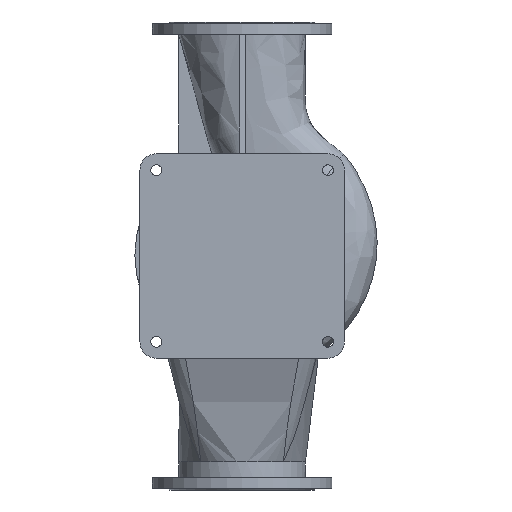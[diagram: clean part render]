
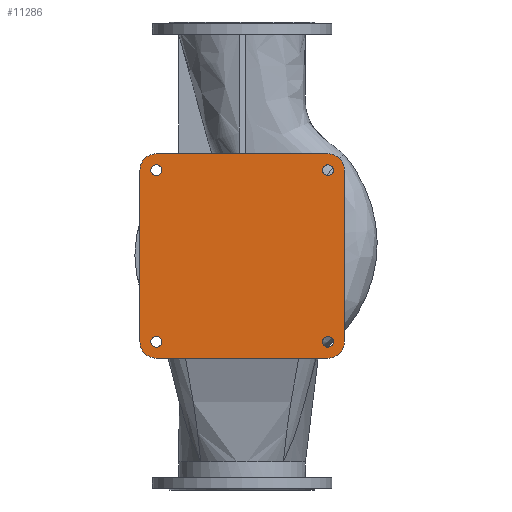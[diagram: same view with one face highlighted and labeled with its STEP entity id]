
A CAD part, front view. The second image highlights one B-rep face of the part: STEP entity #11286.
In plain terms, the highlighted planar face has unit normal (0, -1, 0).
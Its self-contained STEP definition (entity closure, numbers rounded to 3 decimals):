
#405 = CARTESIAN_POINT ( 'NONE',  ( 220., -285., 220. ) ) ;
#521 = FACE_BOUND ( 'NONE', #9908, .T. ) ;
#659 = AXIS2_PLACEMENT_3D ( 'NONE', #17654, #15617, #6361 ) ;
#782 = DIRECTION ( 'NONE',  ( -1., 0., 0. ) ) ;
#918 = CARTESIAN_POINT ( 'NONE',  ( 220., -285., 262. ) ) ;
#1127 = ORIENTED_EDGE ( 'NONE', *, *, #16746, .F. ) ;
#1435 = ORIENTED_EDGE ( 'NONE', *, *, #36318, .T. ) ;
#1576 = CARTESIAN_POINT ( 'NONE',  ( 220., -285., -220. ) ) ;
#2651 = DIRECTION ( 'NONE',  ( 0., 0., 1. ) ) ;
#2680 = VERTEX_POINT ( 'NONE', #17956 ) ;
#2759 = ORIENTED_EDGE ( 'NONE', *, *, #25896, .T. ) ;
#2938 = EDGE_LOOP ( 'NONE', ( #5890, #5265 ) ) ;
#3329 = LINE ( 'NONE', #918, #8018 ) ;
#3673 = ORIENTED_EDGE ( 'NONE', *, *, #12177, .T. ) ;
#3934 = CARTESIAN_POINT ( 'NONE',  ( -220., -285., -262. ) ) ;
#4051 = PLANE ( 'NONE',  #11590 ) ;
#4105 = CARTESIAN_POINT ( 'NONE',  ( 262., -285., -220. ) ) ;
#4367 = ORIENTED_EDGE ( 'NONE', *, *, #21273, .F. ) ;
#4653 = DIRECTION ( 'NONE',  ( 0., 0., 1. ) ) ;
#4777 = VERTEX_POINT ( 'NONE', #10455 ) ;
#4888 = CIRCLE ( 'NONE', #35006, 14. ) ;
#5265 = ORIENTED_EDGE ( 'NONE', *, *, #17847, .T. ) ;
#5527 = ORIENTED_EDGE ( 'NONE', *, *, #10111, .F. ) ;
#5693 = EDGE_CURVE ( 'NONE', #5976, #7673, #7423, .T. ) ;
#5890 = ORIENTED_EDGE ( 'NONE', *, *, #33251, .T. ) ;
#5976 = VERTEX_POINT ( 'NONE', #35907 ) ;
#6173 = DIRECTION ( 'NONE',  ( 0., 0., 1. ) ) ;
#6335 = DIRECTION ( 'NONE',  ( 0., 0., -1. ) ) ;
#6361 = DIRECTION ( 'NONE',  ( 0., 0., -1. ) ) ;
#6449 = CIRCLE ( 'NONE', #27136, 14. ) ;
#6753 = AXIS2_PLACEMENT_3D ( 'NONE', #24265, #35359, #32770 ) ;
#6857 = EDGE_CURVE ( 'NONE', #33443, #30277, #9834, .T. ) ;
#6981 = CARTESIAN_POINT ( 'NONE',  ( -220., -285., -206. ) ) ;
#7423 = LINE ( 'NONE', #4105, #9925 ) ;
#7673 = VERTEX_POINT ( 'NONE', #29679 ) ;
#8011 = EDGE_CURVE ( 'NONE', #13088, #21288, #36524, .T. ) ;
#8018 = VECTOR ( 'NONE', #11641, 1000. ) ;
#8170 = AXIS2_PLACEMENT_3D ( 'NONE', #405, #12204, #2651 ) ;
#8187 = VERTEX_POINT ( 'NONE', #24761 ) ;
#8236 = CARTESIAN_POINT ( 'NONE',  ( 220., -285., 234. ) ) ;
#8264 = AXIS2_PLACEMENT_3D ( 'NONE', #1576, #35237, #30058 ) ;
#9029 = FACE_BOUND ( 'NONE', #16487, .T. ) ;
#9137 = EDGE_CURVE ( 'NONE', #13994, #4777, #6449, .T. ) ;
#9834 = LINE ( 'NONE', #17987, #29486 ) ;
#9894 = AXIS2_PLACEMENT_3D ( 'NONE', #12157, #11591, #34149 ) ;
#9908 = EDGE_LOOP ( 'NONE', ( #3673, #2759 ) ) ;
#9925 = VECTOR ( 'NONE', #32201, 1000. ) ;
#10111 = EDGE_CURVE ( 'NONE', #7673, #35893, #27189, .T. ) ;
#10379 = EDGE_LOOP ( 'NONE', ( #1435, #22571 ) ) ;
#10455 = CARTESIAN_POINT ( 'NONE',  ( 220., -285., -234. ) ) ;
#10711 = CIRCLE ( 'NONE', #659, 42. ) ;
#10862 = DIRECTION ( 'NONE',  ( 0., 1., 0. ) ) ;
#11096 = CIRCLE ( 'NONE', #33546, 14. ) ;
#11286 = ADVANCED_FACE ( 'NONE', ( #521, #9029, #25856, #12185, #26422 ), #4051, .T. ) ;
#11427 = DIRECTION ( 'NONE',  ( 0., 0., -1. ) ) ;
#11590 = AXIS2_PLACEMENT_3D ( 'NONE', #14774, #11807, #12552 ) ;
#11591 = DIRECTION ( 'NONE',  ( 0., 1., 0. ) ) ;
#11641 = DIRECTION ( 'NONE',  ( 1., 0., 0. ) ) ;
#11807 = DIRECTION ( 'NONE',  ( 0., -1., 0. ) ) ;
#12029 = DIRECTION ( 'NONE',  ( 0., 0., 1. ) ) ;
#12157 = CARTESIAN_POINT ( 'NONE',  ( -220., -285., -220. ) ) ;
#12177 = EDGE_CURVE ( 'NONE', #23287, #27784, #27887, .T. ) ;
#12185 = FACE_BOUND ( 'NONE', #10379, .T. ) ;
#12204 = DIRECTION ( 'NONE',  ( 0., 1., 0. ) ) ;
#12549 = ORIENTED_EDGE ( 'NONE', *, *, #19530, .F. ) ;
#12552 = DIRECTION ( 'NONE',  ( 0., 0., -1. ) ) ;
#13088 = VERTEX_POINT ( 'NONE', #8236 ) ;
#13994 = VERTEX_POINT ( 'NONE', #19946 ) ;
#14206 = CARTESIAN_POINT ( 'NONE',  ( -220., -285., -220. ) ) ;
#14774 = CARTESIAN_POINT ( 'NONE',  ( 220., -285., -220. ) ) ;
#14851 = VERTEX_POINT ( 'NONE', #32258 ) ;
#15390 = DIRECTION ( 'NONE',  ( 0., 0., 1. ) ) ;
#15477 = CARTESIAN_POINT ( 'NONE',  ( -262., -285., 220. ) ) ;
#15546 = ORIENTED_EDGE ( 'NONE', *, *, #31151, .F. ) ;
#15617 = DIRECTION ( 'NONE',  ( 0., 1., 0. ) ) ;
#16170 = CARTESIAN_POINT ( 'NONE',  ( -220., -285., 206. ) ) ;
#16397 = AXIS2_PLACEMENT_3D ( 'NONE', #22985, #33893, #6335 ) ;
#16487 = EDGE_LOOP ( 'NONE', ( #30729, #30549 ) ) ;
#16746 = EDGE_CURVE ( 'NONE', #35893, #8187, #32218, .T. ) ;
#17654 = CARTESIAN_POINT ( 'NONE',  ( 220., -285., 220. ) ) ;
#17847 = EDGE_CURVE ( 'NONE', #34561, #2680, #24566, .T. ) ;
#17956 = CARTESIAN_POINT ( 'NONE',  ( -220., -285., -234. ) ) ;
#17987 = CARTESIAN_POINT ( 'NONE',  ( -262., -285., -220. ) ) ;
#18101 = CARTESIAN_POINT ( 'NONE',  ( 220., -285., -262. ) ) ;
#19262 = VECTOR ( 'NONE', #782, 1000. ) ;
#19530 = EDGE_CURVE ( 'NONE', #8187, #33443, #22458, .T. ) ;
#19615 = ORIENTED_EDGE ( 'NONE', *, *, #35221, .F. ) ;
#19946 = CARTESIAN_POINT ( 'NONE',  ( 220., -285., -206. ) ) ;
#20061 = AXIS2_PLACEMENT_3D ( 'NONE', #14206, #31390, #11427 ) ;
#20341 = DIRECTION ( 'NONE',  ( 0., 1., 0. ) ) ;
#20870 = EDGE_LOOP ( 'NONE', ( #5527, #21051, #4367, #15546, #19615, #33811, #12549, #1127 ) ) ;
#21051 = ORIENTED_EDGE ( 'NONE', *, *, #5693, .F. ) ;
#21273 = EDGE_CURVE ( 'NONE', #35268, #5976, #10711, .T. ) ;
#21288 = VERTEX_POINT ( 'NONE', #23381 ) ;
#21372 = DIRECTION ( 'NONE',  ( 0., 1., 0. ) ) ;
#22150 = DIRECTION ( 'NONE',  ( 0., 0., 1. ) ) ;
#22458 = CIRCLE ( 'NONE', #20061, 42. ) ;
#22469 = CARTESIAN_POINT ( 'NONE',  ( -220., -285., 234. ) ) ;
#22571 = ORIENTED_EDGE ( 'NONE', *, *, #8011, .T. ) ;
#22685 = CIRCLE ( 'NONE', #6753, 14. ) ;
#22865 = CIRCLE ( 'NONE', #16397, 42. ) ;
#22985 = CARTESIAN_POINT ( 'NONE',  ( -220., -285., 220. ) ) ;
#23287 = VERTEX_POINT ( 'NONE', #16170 ) ;
#23381 = CARTESIAN_POINT ( 'NONE',  ( 220., -285., 206. ) ) ;
#24156 = CARTESIAN_POINT ( 'NONE',  ( 220., -285., -220. ) ) ;
#24265 = CARTESIAN_POINT ( 'NONE',  ( 220., -285., -220. ) ) ;
#24566 = CIRCLE ( 'NONE', #32827, 14. ) ;
#24617 = CARTESIAN_POINT ( 'NONE',  ( -220., -285., 220. ) ) ;
#24761 = CARTESIAN_POINT ( 'NONE',  ( -220., -285., -262. ) ) ;
#25746 = CARTESIAN_POINT ( 'NONE',  ( 220., -285., 262. ) ) ;
#25856 = FACE_OUTER_BOUND ( 'NONE', #20870, .T. ) ;
#25896 = EDGE_CURVE ( 'NONE', #27784, #23287, #4888, .T. ) ;
#26422 = FACE_BOUND ( 'NONE', #2938, .T. ) ;
#27136 = AXIS2_PLACEMENT_3D ( 'NONE', #24156, #21372, #32655 ) ;
#27189 = CIRCLE ( 'NONE', #8264, 42. ) ;
#27324 = AXIS2_PLACEMENT_3D ( 'NONE', #24617, #35906, #4653 ) ;
#27784 = VERTEX_POINT ( 'NONE', #22469 ) ;
#27887 = CIRCLE ( 'NONE', #27324, 14. ) ;
#28483 = CARTESIAN_POINT ( 'NONE',  ( -220., -285., -220. ) ) ;
#29486 = VECTOR ( 'NONE', #15390, 1000. ) ;
#29679 = CARTESIAN_POINT ( 'NONE',  ( 262., -285., -220. ) ) ;
#29897 = EDGE_CURVE ( 'NONE', #4777, #13994, #22685, .T. ) ;
#30058 = DIRECTION ( 'NONE',  ( 0., 0., -1. ) ) ;
#30092 = CARTESIAN_POINT ( 'NONE',  ( -262., -285., -220. ) ) ;
#30277 = VERTEX_POINT ( 'NONE', #15477 ) ;
#30549 = ORIENTED_EDGE ( 'NONE', *, *, #9137, .T. ) ;
#30729 = ORIENTED_EDGE ( 'NONE', *, *, #29897, .T. ) ;
#31151 = EDGE_CURVE ( 'NONE', #14851, #35268, #3329, .T. ) ;
#31390 = DIRECTION ( 'NONE',  ( 0., 1., 0. ) ) ;
#31508 = CARTESIAN_POINT ( 'NONE',  ( -220., -285., 220. ) ) ;
#32201 = DIRECTION ( 'NONE',  ( 0., 0., -1. ) ) ;
#32218 = LINE ( 'NONE', #3934, #19262 ) ;
#32258 = CARTESIAN_POINT ( 'NONE',  ( -220., -285., 262. ) ) ;
#32655 = DIRECTION ( 'NONE',  ( 0., 0., 1. ) ) ;
#32770 = DIRECTION ( 'NONE',  ( 0., 0., 1. ) ) ;
#32827 = AXIS2_PLACEMENT_3D ( 'NONE', #28483, #20341, #12029 ) ;
#33251 = EDGE_CURVE ( 'NONE', #2680, #34561, #35289, .T. ) ;
#33443 = VERTEX_POINT ( 'NONE', #30092 ) ;
#33546 = AXIS2_PLACEMENT_3D ( 'NONE', #34127, #10862, #22150 ) ;
#33742 = DIRECTION ( 'NONE',  ( 0., 1., 0. ) ) ;
#33811 = ORIENTED_EDGE ( 'NONE', *, *, #6857, .F. ) ;
#33893 = DIRECTION ( 'NONE',  ( 0., 1., 0. ) ) ;
#34127 = CARTESIAN_POINT ( 'NONE',  ( 220., -285., 220. ) ) ;
#34149 = DIRECTION ( 'NONE',  ( 0., 0., 1. ) ) ;
#34561 = VERTEX_POINT ( 'NONE', #6981 ) ;
#35006 = AXIS2_PLACEMENT_3D ( 'NONE', #31508, #33742, #6173 ) ;
#35221 = EDGE_CURVE ( 'NONE', #30277, #14851, #22865, .T. ) ;
#35237 = DIRECTION ( 'NONE',  ( 0., 1., 0. ) ) ;
#35268 = VERTEX_POINT ( 'NONE', #25746 ) ;
#35289 = CIRCLE ( 'NONE', #9894, 14. ) ;
#35359 = DIRECTION ( 'NONE',  ( 0., 1., 0. ) ) ;
#35893 = VERTEX_POINT ( 'NONE', #18101 ) ;
#35906 = DIRECTION ( 'NONE',  ( 0., 1., 0. ) ) ;
#35907 = CARTESIAN_POINT ( 'NONE',  ( 262., -285., 220. ) ) ;
#36318 = EDGE_CURVE ( 'NONE', #21288, #13088, #11096, .T. ) ;
#36524 = CIRCLE ( 'NONE', #8170, 14. ) ;
